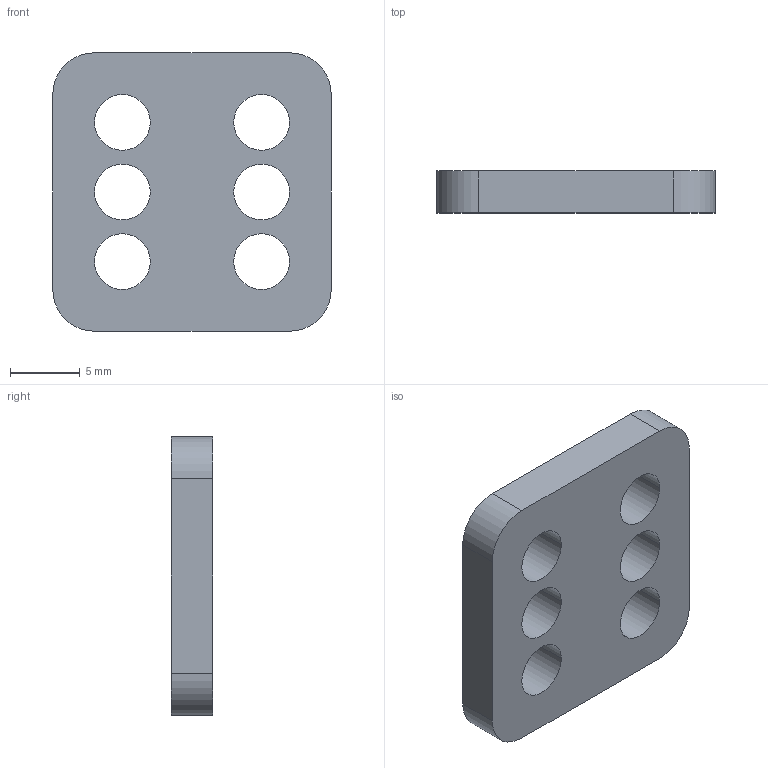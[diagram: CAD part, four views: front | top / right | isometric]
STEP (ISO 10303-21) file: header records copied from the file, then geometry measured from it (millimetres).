
FILE_DESCRIPTION((''),'2;1');
FILE_NAME('0000187046','2024-02-16T17:29:52',('Wyndorps'),(''),'CREO PARAMETRIC BY PTC INC, 2022484','CREO PARAMETRIC BY PTC INC, 2022484','');
FILE_SCHEMA(('CONFIG_CONTROL_DESIGN'));
Length unit declared in the file: millimetre
Products named in the file (1): 0000187046
Bounding box: 20 x 3 x 20 mm (x, y, z)
Volume: 950.6 mm3; surface area: 1084.5 mm2
Topology: 1 solids, 1 shells, 22 faces, 60 edges, 40 vertices
Faces by surface type: cylinder 16, plane 6
Entity records: 778 total; most frequent: DIRECTION 136, CARTESIAN_POINT 122, ORIENTED_EDGE 120, EDGE_CURVE 60, AXIS2_PLACEMENT_3D 54, VERTEX_POINT 40, EDGE_LOOP 34, CIRCLE 32
